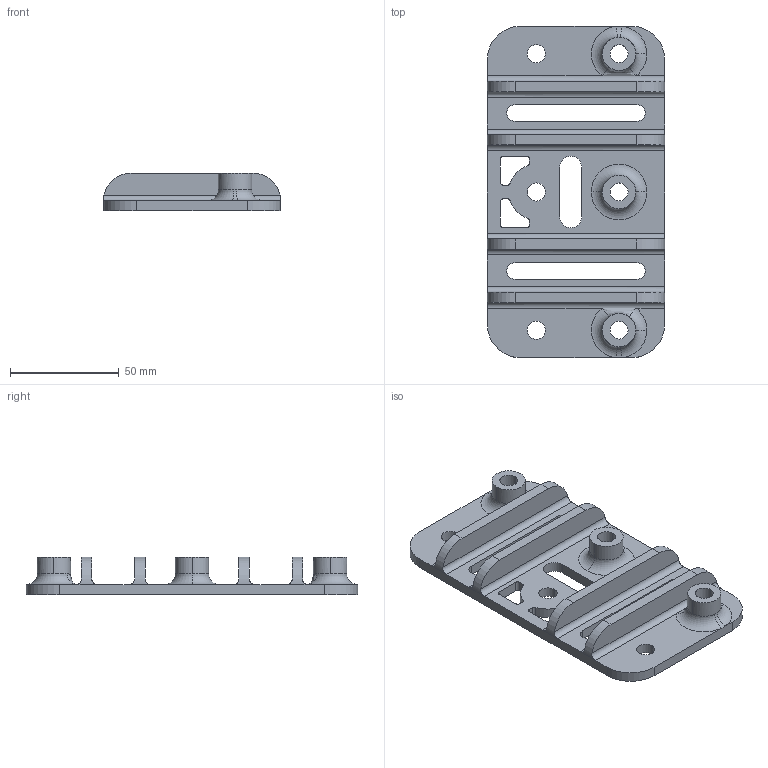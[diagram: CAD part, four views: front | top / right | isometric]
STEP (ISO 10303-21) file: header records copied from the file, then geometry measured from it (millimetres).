
FILE_DESCRIPTION (( 'STEP AP203' ), '1' );
FILE_NAME ('horz support support side.STEP', '2017-10-24T20:02:58', ( '' ), ( '' ), 'SwSTEP 2.0', 'SolidWorks 2016', '' );
FILE_SCHEMA (( 'CONFIG_CONTROL_DESIGN' ));
Length unit declared in the file: inch
Products named in the file (1): horz support support side
Bounding box: 81.4 x 152.4 x 17.46 mm (x, y, z)
Volume: 74636.1 mm3; surface area: 35578.7 mm2
Topology: 1 solids, 1 shells, 111 faces, 296 edges, 188 vertices
Faces by surface type: cylinder 58, plane 41, torus 8, bspline 4
Entity records: 3989 total; most frequent: CARTESIAN_POINT 1048, DIRECTION 616, ORIENTED_EDGE 592, EDGE_CURVE 296, AXIS2_PLACEMENT_3D 232, VERTEX_POINT 188, VECTOR 152, LINE 152
